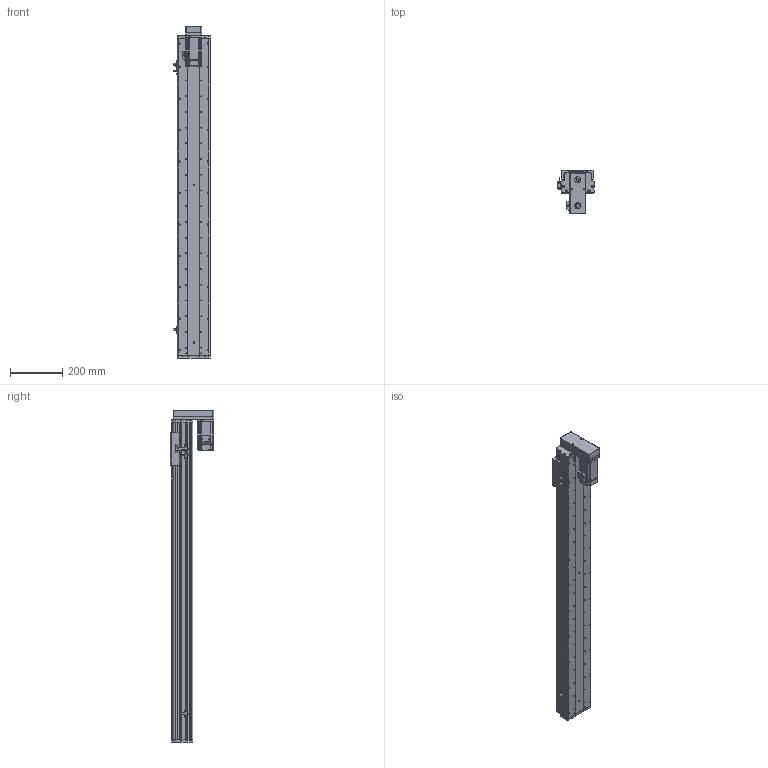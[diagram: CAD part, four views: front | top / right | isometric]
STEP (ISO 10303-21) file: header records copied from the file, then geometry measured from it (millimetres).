
FILE_DESCRIPTION (( 'STEP AP214' ), '1' );
FILE_NAME ('KSD125S-S1000-MD-CM.STEP', '2017-10-21T08:16:36', ( '微软用户' ), ( '微软中国' ), 'SwSTEP 2.0', 'SolidWorks 2014', '' );
FILE_SCHEMA (( 'AUTOMOTIVE_DESIGN' ));
Length unit declared in the file: millimetre
Products named in the file (16): 125宽马达安装板连板上下折丝杆同步带; 125遵悵誘欶奻狟殏; HTPA30S3M150_A_H6_a佪裝蚚; HTPA30S3M150_A_H6_a萇儂蚚; KSD125S-1000俴最佪裝滅鳥裔; KSD125S-1000俴最佪裝菁啣; KSD125-賑雄釱1; MHMD042G1CA_2_03; 拸萇儂釱滅袉菜; 拸萇儂釱滅袉菜-1; 覜茼え68遵圉猾敕; U倰嫖萇假蚾璃; U倰嫖萇EEㄜSX672; ヶ傷啣-125遵耀郪; 125-帣傷啣1; KSD125S-S1000-MD-CM
Assembly tree (19 placements, depth 2):
  KSD125S-S1000-MD-CM
    125-帣傷啣1
    ヶ傷啣-125遵耀郪
    U倰嫖萇EEㄜSX672  x3
    U倰嫖萇假蚾璃  x3
    覜茼え68遵圉猾敕
    拸萇儂釱滅袉菜-1
    拸萇儂釱滅袉菜
    MHMD042G1CA_2_03
    KSD125-賑雄釱1
    KSD125S-1000俴最佪裝菁啣
    KSD125S-1000俴最佪裝滅鳥裔
    HTPA30S3M150_A_H6_a萇儂蚚
    HTPA30S3M150_A_H6_a佪裝蚚
    125遵悵誘欶奻狟殏
    125宽马达安装板连板上下折丝杆同步带
Bounding box: 138.7 x 165 x 1267.5 mm (x, y, z)
Volume: 3946988.7 mm3; surface area: 1327886.9 mm2
Topology: 18 solids, 21 shells, 2269 faces, 6585 edges, 4345 vertices
Faces by surface type: cylinder 1438, plane 690, cone 119, bspline 22
Entity records: 81665 total; most frequent: CARTESIAN_POINT 16303, DIRECTION 12543, ORIENTED_EDGE 11678, EDGE_CURVE 5917, AXIS2_PLACEMENT_3D 4863, VERTEX_POINT 3937, VECTOR 2817, LINE 2817
